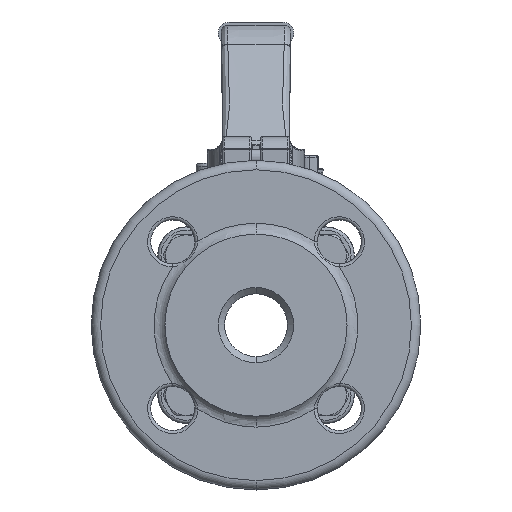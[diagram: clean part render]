
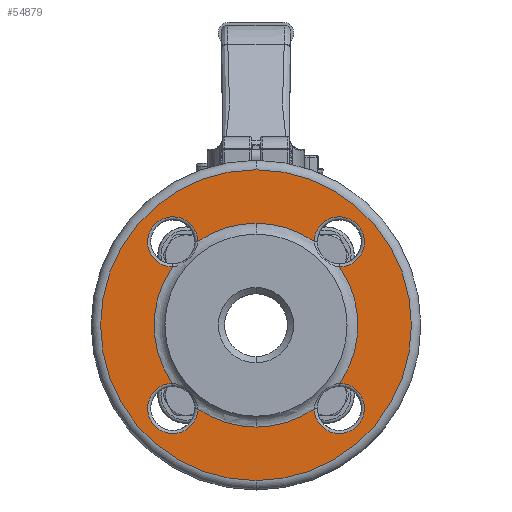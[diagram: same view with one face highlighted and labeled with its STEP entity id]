
A CAD part, left-side view. The second image highlights one B-rep face of the part: STEP entity #54879.
In plain terms, the highlighted planar face has unit normal (-1, 0, 0).
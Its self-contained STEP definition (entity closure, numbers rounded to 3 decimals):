
#1146=CARTESIAN_POINT('',(-43.,0.,0.));
#1147=DIRECTION('',(1.,0.,0.));
#1148=DIRECTION('',(0.,0.821,-0.57));
#1149=AXIS2_PLACEMENT_3D('',#1146,#1147,#1148);
#1151=CARTESIAN_POINT('',(-43.,0.,0.));
#1152=DIRECTION('',(1.,0.,0.));
#1153=DIRECTION('',(0.,0.,-1.));
#1154=AXIS2_PLACEMENT_3D('',#1151,#1152,#1153);
#1156=CARTESIAN_POINT('',(-43.,0.,0.));
#1157=DIRECTION('',(-1.,0.,0.));
#1158=DIRECTION('',(0.,0.,-1.));
#1159=AXIS2_PLACEMENT_3D('',#1156,#1157,#1158);
#1161=CARTESIAN_POINT('',(-43.,0.,0.));
#1162=DIRECTION('',(-1.,0.,0.));
#1163=DIRECTION('',(0.,-0.821,-0.57));
#1164=AXIS2_PLACEMENT_3D('',#1161,#1162,#1163);
#1166=CARTESIAN_POINT('',(-43.,0.,0.));
#1167=DIRECTION('',(-1.,0.,0.));
#1168=DIRECTION('',(0.,-0.57,0.821));
#1169=AXIS2_PLACEMENT_3D('',#1166,#1167,#1168);
#1171=CARTESIAN_POINT('',(-43.,0.,0.));
#1172=DIRECTION('',(1.,0.,0.));
#1173=DIRECTION('',(0.,0.57,0.821));
#1174=AXIS2_PLACEMENT_3D('',#1171,#1172,#1173);
#1181=CARTESIAN_POINT('',(-43.,0.,0.));
#1182=DIRECTION('',(1.,0.,0.));
#1183=DIRECTION('',(0.,0.,-1.));
#1184=AXIS2_PLACEMENT_3D('',#1181,#1182,#1183);
#1204=CARTESIAN_POINT('',(-43.,0.,0.));
#1205=DIRECTION('',(1.,0.,0.));
#1206=DIRECTION('',(0.,0.,1.));
#1207=AXIS2_PLACEMENT_3D('',#1204,#1205,#1206);
#42853=CARTESIAN_POINT('',(-43.,26.517,26.517));
#42854=DIRECTION('',(1.,0.,0.));
#42855=DIRECTION('',(0.,0.019,-1.));
#42856=AXIS2_PLACEMENT_3D('',#42853,#42854,#42855);
#42873=CARTESIAN_POINT('',(-43.,18.518,
26.665));
#42926=CARTESIAN_POINT('',(-43.,26.665,
18.518));
#43007=CARTESIAN_POINT('',(-43.,-26.517,26.517));
#43008=DIRECTION('',(1.,0.,0.));
#43009=DIRECTION('',(0.,1.,0.019));
#43010=AXIS2_PLACEMENT_3D('',#43007,#43008,#43009);
#43027=CARTESIAN_POINT('',(-43.,-26.665,
18.518));
#43109=CARTESIAN_POINT('',(-43.,-18.518,
26.665));
#43195=CARTESIAN_POINT('',(-43.,-26.665,
-18.518));
#43253=CARTESIAN_POINT('',(-43.,-26.517,-26.517));
#43254=DIRECTION('',(1.,0.,0.));
#43255=DIRECTION('',(0.,-0.019,1.));
#43256=AXIS2_PLACEMENT_3D('',#43253,#43254,#43255);
#43262=CARTESIAN_POINT('',(-43.,-18.518,
-26.665));
#43320=CARTESIAN_POINT('',(-43.,18.518,
-26.665));
#43334=CARTESIAN_POINT('',(-43.,26.517,-26.517));
#43335=DIRECTION('',(1.,0.,0.));
#43336=DIRECTION('',(0.,-1.,-0.019));
#43337=AXIS2_PLACEMENT_3D('',#43334,#43335,#43336);
#43354=CARTESIAN_POINT('',(-43.,26.665,
-18.518));
#44134=CARTESIAN_POINT('',(-43.,0.,-49.5));
#44135=CARTESIAN_POINT('',(-43.,0.,49.5));
#44136=VERTEX_POINT('',#44134);
#44137=VERTEX_POINT('',#44135);
#45850=VERTEX_POINT('',#42873);
#45853=VERTEX_POINT('',#42926);
#45867=VERTEX_POINT('',#43027);
#45870=VERTEX_POINT('',#43109);
#45880=VERTEX_POINT('',#43262);
#45884=VERTEX_POINT('',#43195);
#45900=VERTEX_POINT('',#43354);
#45903=VERTEX_POINT('',#43320);
#45913=CARTESIAN_POINT('',(-43.,0.,32.464));
#45914=VERTEX_POINT('',#45913);
#45915=CARTESIAN_POINT('',(-43.,0.,-32.464));
#45916=VERTEX_POINT('',#45915);
#54852=CARTESIAN_POINT('',(-43.,0.,0.));
#54853=DIRECTION('',(-1.,0.,0.));
#54854=DIRECTION('',(0.,0.,1.));
#54855=AXIS2_PLACEMENT_3D('',#54852,#54853,#54854);
#54856=PLANE('',#54855);
#54858=ORIENTED_EDGE('',*,*,#54857,.T.);
#54860=ORIENTED_EDGE('',*,*,#54859,.T.);
#54861=EDGE_LOOP('',(#54858,#54860));
#54862=FACE_OUTER_BOUND('',#54861,.F.);
#54864=ORIENTED_EDGE('',*,*,#54863,.F.);
#54865=ORIENTED_EDGE('',*,*,#54840,.F.);
#54867=ORIENTED_EDGE('',*,*,#54866,.F.);
#54868=ORIENTED_EDGE('',*,*,#54834,.F.);
#54869=ORIENTED_EDGE('',*,*,#54820,.T.);
#54871=ORIENTED_EDGE('',*,*,#54870,.F.);
#54872=ORIENTED_EDGE('',*,*,#54814,.T.);
#54874=ORIENTED_EDGE('',*,*,#54873,.F.);
#54875=ORIENTED_EDGE('',*,*,#54808,.T.);
#54876=ORIENTED_EDGE('',*,*,#54846,.F.);
#54877=EDGE_LOOP('',(#54864,#54865,#54867,#54868,#54869,#54871,#54872,#54874,
#54875,#54876));
#54878=FACE_BOUND('',#54877,.F.);
#54879=ADVANCED_FACE('',(#54862,#54878),#54856,.T.);
#1150=CIRCLE('',#1149,32.464);
#1155=CIRCLE('',#1154,32.464);
#1160=CIRCLE('',#1159,32.464);
#1165=CIRCLE('',#1164,32.464);
#1170=CIRCLE('',#1169,32.464);
#1175=CIRCLE('',#1174,32.464);
#1185=CIRCLE('',#1184,49.5);
#1208=CIRCLE('',#1207,49.5);
#42857=CIRCLE('',#42856,8.);
#43011=CIRCLE('',#43010,8.);
#43257=CIRCLE('',#43256,8.);
#43338=CIRCLE('',#43337,8.);
#54808=EDGE_CURVE('',#45870,#45914,#1170,.T.);
#54814=EDGE_CURVE('',#45884,#45867,#1165,.T.);
#54820=EDGE_CURVE('',#45916,#45880,#1160,.T.);
#54834=EDGE_CURVE('',#45916,#45903,#1155,.T.);
#54840=EDGE_CURVE('',#45900,#45853,#1150,.T.);
#54846=EDGE_CURVE('',#45850,#45914,#1175,.T.);
#54857=EDGE_CURVE('',#44136,#44137,#1185,.T.);
#54859=EDGE_CURVE('',#44137,#44136,#1208,.T.);
#54863=EDGE_CURVE('',#45853,#45850,#42857,.T.);
#54866=EDGE_CURVE('',#45903,#45900,#43338,.T.);
#54870=EDGE_CURVE('',#45884,#45880,#43257,.T.);
#54873=EDGE_CURVE('',#45870,#45867,#43011,.T.);
